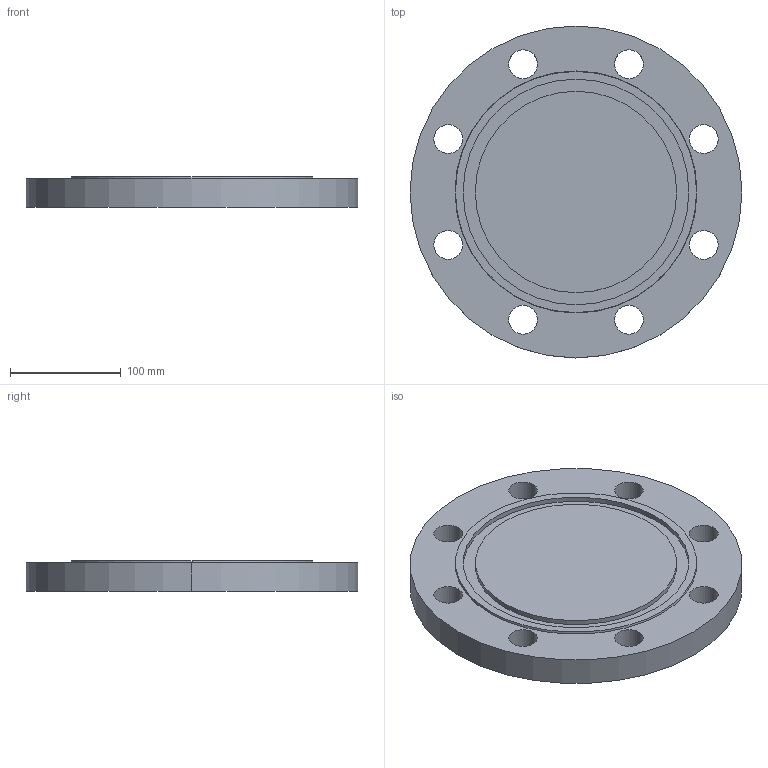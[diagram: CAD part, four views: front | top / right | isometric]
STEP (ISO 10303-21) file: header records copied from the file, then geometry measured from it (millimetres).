
FILE_DESCRIPTION (( 'STEP AP214' ), '1' );
FILE_NAME ('PN40 DN150 Type 05 - Type D Face.STEP', '2019-01-05T00:21:12', ( '' ), ( '' ), 'SwSTEP 2.0', 'SolidWorks 2019', '' );
FILE_SCHEMA (( 'AUTOMOTIVE_DESIGN' ));
Length unit declared in the file: millimetre
Products named in the file (1): PN40 DN150 Type 05 - Type D Face
Bounding box: 300 x 300 x 28 mm (x, y, z)
Volume: 1772277.5 mm3; surface area: 180979.1 mm2
Topology: 1 solids, 1 shells, 29 faces, 72 edges, 48 vertices
Faces by surface type: cylinder 22, plane 5, cone 2
Entity records: 960 total; most frequent: DIRECTION 180, CARTESIAN_POINT 150, ORIENTED_EDGE 144, AXIS2_PLACEMENT_3D 78, EDGE_CURVE 72, VERTEX_POINT 48, CIRCLE 48, EDGE_LOOP 48
